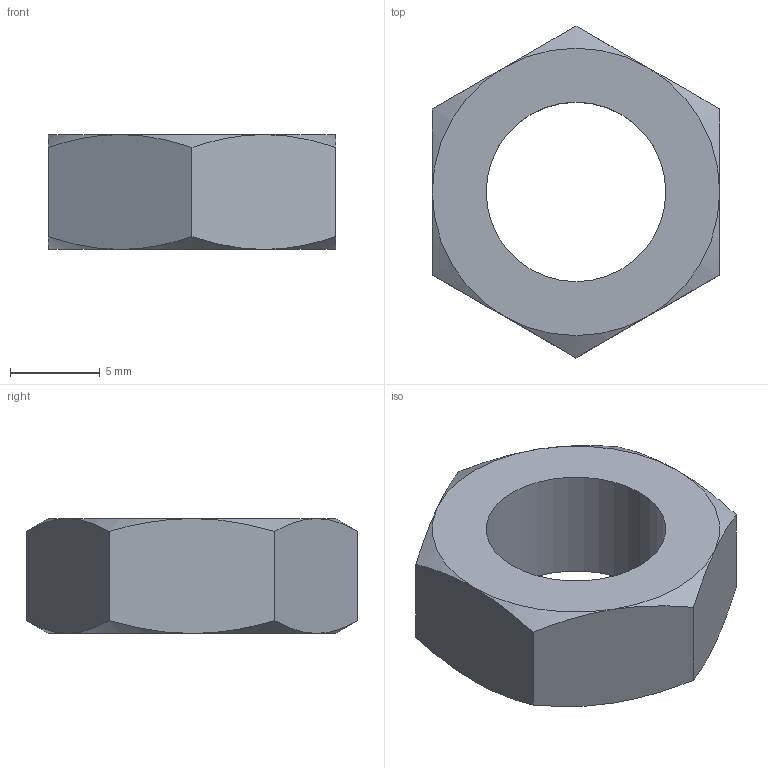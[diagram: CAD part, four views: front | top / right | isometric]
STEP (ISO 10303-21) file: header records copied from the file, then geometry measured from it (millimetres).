
FILE_DESCRIPTION (( 'STEP AP214' ), '1' );
FILE_NAME ('EcrouH19.STEP', '2008-05-19T17:35:31', ( ' ' ), ( ' ' ), 'SwSTEP 2.0', 'SolidWorks 2005143', '' );
FILE_SCHEMA (( 'AUTOMOTIVE_DESIGN' ));
Length unit declared in the file: millimetre
Products named in the file (1): EcrouH19
Bounding box: 16 x 18.48 x 6.4 mm (x, y, z)
Volume: 907.3 mm3; surface area: 821.3 mm2
Topology: 1 solids, 1 shells, 22 faces, 48 edges, 28 vertices
Faces by surface type: cone 12, plane 8, cylinder 2
Entity records: 715 total; most frequent: CARTESIAN_POINT 243, ORIENTED_EDGE 96, DIRECTION 86, EDGE_CURVE 48, AXIS2_PLACEMENT_3D 39, VERTEX_POINT 28, B_SPLINE_CURVE_WITH_KNOTS 24, EDGE_LOOP 24
